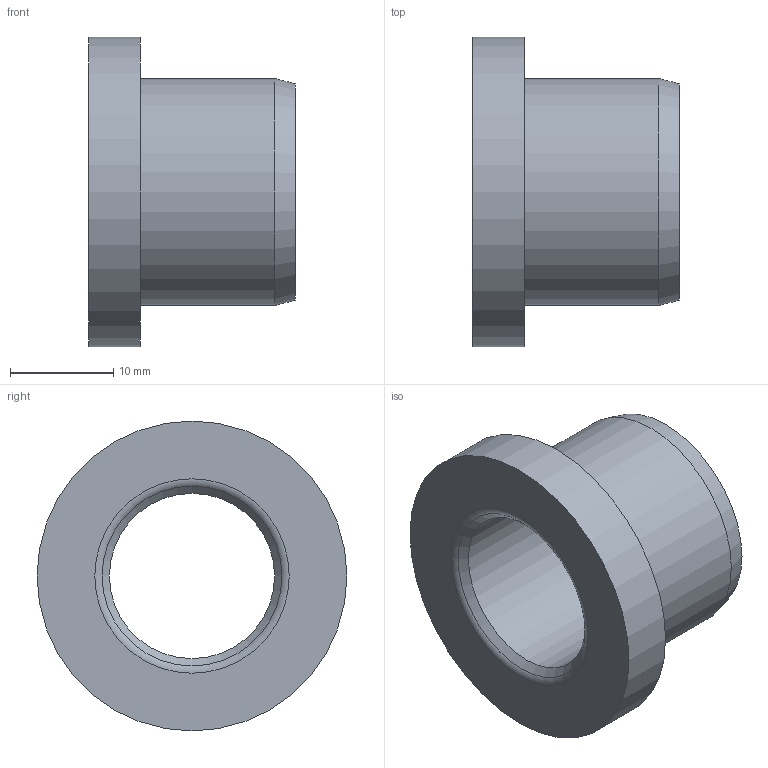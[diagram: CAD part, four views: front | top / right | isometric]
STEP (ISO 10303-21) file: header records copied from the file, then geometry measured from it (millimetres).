
FILE_DESCRIPTION(/* description */ (''),/* implementation_level */ '2;1');
FILE_NAME(/* name */ '',/* time_stamp */ '2025-06-27T16:21:51+09:00',/* author */ ('jhkim'),/* organization */ (''),/* preprocessor_version */ 'ST-DEVELOPER v20.1',/* originating_system */ 'Autodesk Inventor 2026',/* authorisation */ '');
FILE_SCHEMA (('AUTOMOTIVE_DESIGN { 1 0 10303 214 3 1 1 }'));
Length unit declared in the file: millimetre
Products named in the file (1): 플랜지 오일레스 부시
Bounding box: 20 x 30 x 30 mm (x, y, z)
Volume: 5123.8 mm3; surface area: 3429.1 mm2
Topology: 1 solids, 1 shells, 11 faces, 21 edges, 13 vertices
Faces by surface type: cone 3, plane 3, cylinder 3, torus 2
Full cylindrical faces by diameter (mm): 16 x1, 22 x1, 30 x1
Entity records: 333 total; most frequent: DIRECTION 60, CARTESIAN_POINT 46, ORIENTED_EDGE 42, AXIS2_PLACEMENT_3D 27, EDGE_CURVE 21, CIRCLE 15, EDGE_LOOP 14, VERTEX_POINT 13
